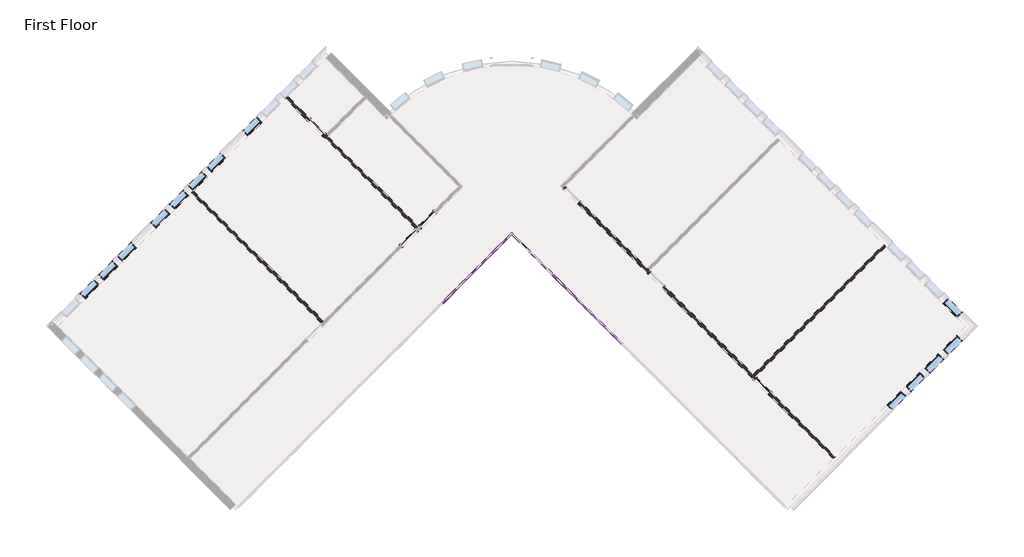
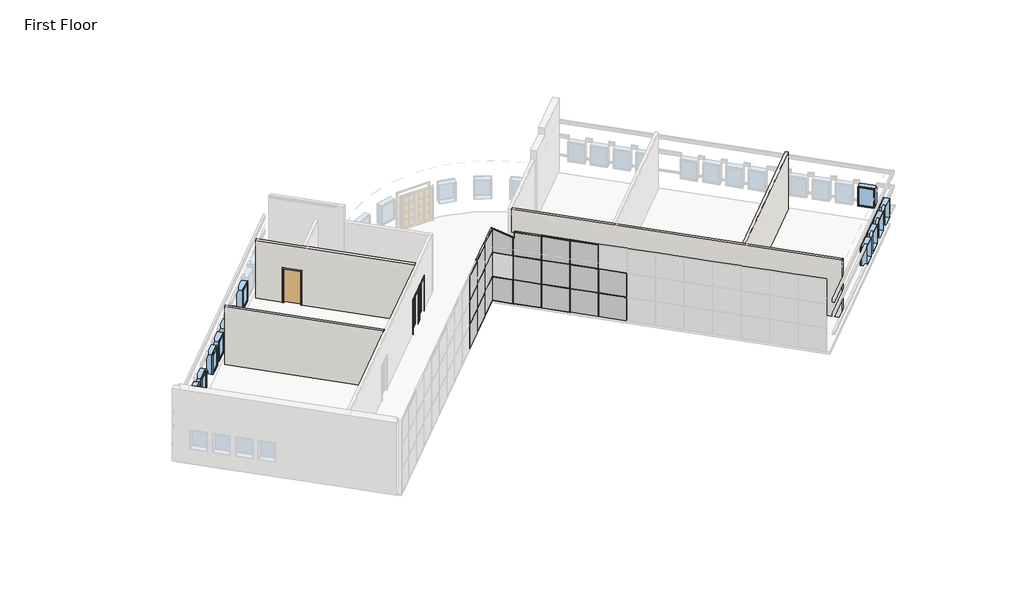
# One storey, part 3 of 5: 47 members, 22 plates, 13 windows, 4 doors, 4 walls.
"""IFC4 building model written with IfcOpenShell, lengths in millimetres."""

from ifc_helpers import new_model, si_unit, origin, origin_with_axes, place, context, project, spatial, polyline, outline, extrude, faceted_brep, transform, mapped, element, save
from components import door_f9494b7c, door_b81abb0e, door_5f5b55da, member_b8a5b5c0, member_155beb68, member_f5090587, member_42be4715, member_6121af53, member_bd80eb51, member_a3731390, member_b87a50da, member_beb33b19, member_b73a8a31, member_6675e4ca, member_76f0c52a, member_4ed907bf, system_panel_glazed_f8555db4, system_panel_glazed_da345f4e, system_panel_glazed_b4114ee2, system_panel_glazed_d4009c89, system_panel_glazed_f1e4c5b0, system_panel_solid_99f695d0, system_panel_solid_2f1037e2, system_panel_solid_f673cd79, system_panel_solid_3576f13f, window_15c49d37, window_0e2fc6ce

model = new_model("IFC4")

# Units and contexts
model_context = context("Model", 3, world=origin())
ifc_project = project(units=[si_unit("LENGTHUNIT", "METRE", prefix="MILLI")], contexts=[model_context])

# Site, building, storey
site = spatial("IfcSite", under=ifc_project)
building = spatial("IfcBuilding", under=site)
storey = spatial("IfcBuildingStorey", under=building, Name="First Floor", Elevation=0.0)

# Doors
placement = place(None, origin())
door_shape = door_f9494b7c(model_context)
element("IfcDoor", 1, ObjectType="Single-Flush : 36\" x 84\"", at=placement, inside=storey, context=model_context, shape_type="MappedRepresentation", body=[
    mapped(door_shape, transform((-11920.1265343, 7875.9588464, 0.0), x_axis=(0.7071067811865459, -0.7071067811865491, 0.0), y_axis=(0.7071067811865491, 0.7071067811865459, 0.0), z_axis=(0.0, 0.0, 1.0))),
])
door_2_shape = door_b81abb0e(model_context)
element("IfcDoor", 2, ObjectType="Single-Glass 1 : 36\" x 84\"", at=placement, inside=storey, context=model_context, shape_type="MappedRepresentation", body=[
    mapped(door_2_shape, transform((-7643.2795567, 2737.0072811, 0.0), x_axis=(0.7071067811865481, 0.7071067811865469, 0.0), y_axis=(-0.7071067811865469, 0.7071067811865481, 0.0), z_axis=(0.0, 0.0, 1.0))),
])
door_3_shape = door_5f5b55da(model_context)
element("IfcDoor", 3, ObjectType="Single-Glass 1 : 36\" x 84\"", at=placement, inside=storey, context=model_context, shape_type="MappedRepresentation", body=[
    mapped(door_3_shape, transform((-6781.1749691, 3599.1118687, 0.0), x_axis=(-0.7071067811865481, -0.7071067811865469, 0.0), y_axis=(0.7071067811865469, -0.7071067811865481, 0.0), z_axis=(0.0, 0.0, 1.0))),
])
element("IfcDoor", 4, ObjectType="Single-Glass 1 : 36\" x 84\"", at=placement, inside=storey, context=model_context, shape_type="MappedRepresentation", body=[
    mapped(door_3_shape, transform((8770.3835686, -4126.1534594, 0.0), x_axis=(-0.7071067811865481, 0.7071067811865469, 0.0), y_axis=(-0.7071067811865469, -0.7071067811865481, 0.0), z_axis=(0.0, 0.0, 1.0))),
])

# Members
member_shape = member_b8a5b5c0(model_context)
element("IfcMember", 5, ObjectType="Rectangular Mullion : 1.5\" x 2.5\" Rectangular", at=placement, inside=storey, context=model_context, shape_type="MappedRepresentation", body=[
    mapped(member_shape, transform((-2894.9691327, 2925.5926597, 0.0), x_axis=(0.0, 0.0, -1.0), y_axis=(-0.7071067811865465, 0.7071067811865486, 0.0), z_axis=(0.7071067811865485, 0.7071067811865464, 0.0))),
])
member_2_shape = member_155beb68(model_context)
element("IfcMember", 6, ObjectType="Rectangular Mullion : 1.5\" x 2.5\" Rectangular", at=placement, inside=storey, context=model_context, shape_type="MappedRepresentation", body=[
    mapped(member_2_shape, transform((-3945.6590988, 1874.9026935, 0.0), x_axis=(-0.7071067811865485, -0.7071067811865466, 0.0), y_axis=(-0.7071067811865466, 0.7071067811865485, 0.0), z_axis=(0.0, 0.0, -1.0))),
])
element("IfcMember", 7, ObjectType="Rectangular Mullion : 1.5\" x 2.5\" Rectangular", at=placement, inside=storey, context=model_context, shape_type="MappedRepresentation", body=[
    mapped(member_2_shape, transform((-5023.2898334, 797.271959, 0.0), x_axis=(-0.7071067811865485, -0.7071067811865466, 0.0), y_axis=(-0.7071067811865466, 0.7071067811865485, 0.0), z_axis=(0.0, 0.0, -1.0))),
])
element("IfcMember", 8, ObjectType="Rectangular Mullion : 1.5\" x 2.5\" Rectangular", at=placement, inside=storey, context=model_context, shape_type="MappedRepresentation", body=[
    mapped(member_2_shape, transform((115.6617319, -31.1566682, 0.0), x_axis=(-0.7071067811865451, 0.70710678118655, 0.0), y_axis=(0.70710678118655, 0.7071067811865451, 0.0), z_axis=(0.0, 0.0, -1.0))),
])
element("IfcMember", 9, ObjectType="Rectangular Mullion : 1.5\" x 2.5\" Rectangular", at=placement, inside=storey, context=model_context, shape_type="MappedRepresentation", body=[
    mapped(member_2_shape, transform((-961.9690026, 1046.4740663, 0.0), x_axis=(-0.7071067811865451, 0.70710678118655, 0.0), y_axis=(0.70710678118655, 0.7071067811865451, 0.0), z_axis=(0.0, 0.0, -1.0))),
])
element("IfcMember", 10, ObjectType="Rectangular Mullion : 1.5\" x 2.5\" Rectangular", at=placement, inside=storey, context=model_context, shape_type="MappedRepresentation", body=[
    mapped(member_2_shape, transform((-2039.5997371, 2124.1048009, 0.0), x_axis=(-0.7071067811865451, 0.70710678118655, 0.0), y_axis=(0.70710678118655, 0.7071067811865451, 0.0), z_axis=(0.0, 0.0, -1.0))),
])
element("IfcMember", 11, ObjectType="Rectangular Mullion : 1.5\" x 2.5\" Rectangular", at=placement, inside=storey, context=model_context, shape_type="MappedRepresentation", body=[
    mapped(member_2_shape, transform((-3945.6590988, 1874.9026935, 3048.0), x_axis=(-0.7071067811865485, -0.7071067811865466, 0.0), y_axis=(-0.7071067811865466, 0.7071067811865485, 0.0), z_axis=(0.0, 0.0, -1.0))),
])
element("IfcMember", 12, ObjectType="Rectangular Mullion : 1.5\" x 2.5\" Rectangular", at=placement, inside=storey, context=model_context, shape_type="MappedRepresentation", body=[
    mapped(member_2_shape, transform((-5023.2898334, 797.271959, 3048.0), x_axis=(-0.7071067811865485, -0.7071067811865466, 0.0), y_axis=(-0.7071067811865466, 0.7071067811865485, 0.0), z_axis=(0.0, 0.0, -1.0))),
])
element("IfcMember", 13, ObjectType="Rectangular Mullion : 1.5\" x 2.5\" Rectangular", at=placement, inside=storey, context=model_context, shape_type="MappedRepresentation", body=[
    mapped(member_2_shape, transform((115.6617319, -31.1566682, 3048.0), x_axis=(-0.7071067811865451, 0.70710678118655, 0.0), y_axis=(0.70710678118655, 0.7071067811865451, 0.0), z_axis=(0.0, 0.0, -1.0))),
])
element("IfcMember", 14, ObjectType="Rectangular Mullion : 1.5\" x 2.5\" Rectangular", at=placement, inside=storey, context=model_context, shape_type="MappedRepresentation", body=[
    mapped(member_2_shape, transform((-961.9690026, 1046.4740663, 3048.0), x_axis=(-0.7071067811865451, 0.70710678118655, 0.0), y_axis=(0.70710678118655, 0.7071067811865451, 0.0), z_axis=(0.0, 0.0, -1.0))),
])
element("IfcMember", 15, ObjectType="Rectangular Mullion : 1.5\" x 2.5\" Rectangular", at=placement, inside=storey, context=model_context, shape_type="MappedRepresentation", body=[
    mapped(member_2_shape, transform((-3945.6590988, 1874.9026935, 1524.0), x_axis=(-0.7071067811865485, -0.7071067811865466, 0.0), y_axis=(-0.7071067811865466, 0.7071067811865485, 0.0), z_axis=(0.0, 0.0, -1.0))),
])
element("IfcMember", 16, ObjectType="Rectangular Mullion : 1.5\" x 2.5\" Rectangular", at=placement, inside=storey, context=model_context, shape_type="MappedRepresentation", body=[
    mapped(member_2_shape, transform((-5023.2898334, 797.271959, 1524.0), x_axis=(-0.7071067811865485, -0.7071067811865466, 0.0), y_axis=(-0.7071067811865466, 0.7071067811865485, 0.0), z_axis=(0.0, 0.0, -1.0))),
])
element("IfcMember", 17, ObjectType="Rectangular Mullion : 1.5\" x 2.5\" Rectangular", at=placement, inside=storey, context=model_context, shape_type="MappedRepresentation", body=[
    mapped(member_2_shape, transform((115.6617319, -31.1566682, 1524.0), x_axis=(-0.7071067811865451, 0.70710678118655, 0.0), y_axis=(0.70710678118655, 0.7071067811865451, 0.0), z_axis=(0.0, 0.0, -1.0))),
])
element("IfcMember", 18, ObjectType="Rectangular Mullion : 1.5\" x 2.5\" Rectangular", at=placement, inside=storey, context=model_context, shape_type="MappedRepresentation", body=[
    mapped(member_2_shape, transform((-961.9690026, 1046.4740663, 1524.0), x_axis=(-0.7071067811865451, 0.70710678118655, 0.0), y_axis=(0.70710678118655, 0.7071067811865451, 0.0), z_axis=(0.0, 0.0, -1.0))),
])
element("IfcMember", 19, ObjectType="Rectangular Mullion : 1.5\" x 2.5\" Rectangular", at=placement, inside=storey, context=model_context, shape_type="MappedRepresentation", body=[
    mapped(member_2_shape, transform((-2039.5997371, 2124.1048009, 1524.0), x_axis=(-0.7071067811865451, 0.70710678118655, 0.0), y_axis=(0.70710678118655, 0.7071067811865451, 0.0), z_axis=(0.0, 0.0, -1.0))),
])
member_3_shape = member_f5090587(model_context)
element("IfcMember", 20, ObjectType="Rectangular Mullion : 1.5\" x 2.5\" Rectangular", at=placement, inside=storey, context=model_context, shape_type="MappedRepresentation", body=[
    mapped(member_3_shape, transform((-3932.1887147, 1888.3730777, 1524.0), x_axis=(0.0, 0.0, 1.0), y_axis=(-0.7071067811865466, 0.7071067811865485, 0.0), z_axis=(-0.7071067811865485, -0.7071067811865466, 0.0))),
])
element("IfcMember", 21, ObjectType="Rectangular Mullion : 1.5\" x 2.5\" Rectangular", at=placement, inside=storey, context=model_context, shape_type="MappedRepresentation", body=[
    mapped(member_3_shape, transform((-3932.1887147, 1888.3730777, 3048.0), x_axis=(0.0, 0.0, 1.0), y_axis=(-0.7071067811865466, 0.7071067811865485, 0.0), z_axis=(-0.7071067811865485, -0.7071067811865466, 0.0))),
])
member_4_shape = member_42be4715(model_context)
element("IfcMember", 22, ObjectType="Rectangular Mullion : 1.5\" x 2.5\" Rectangular", at=placement, inside=storey, context=model_context, shape_type="MappedRepresentation", body=[
    mapped(member_4_shape, transform((-5009.8194492, 810.7423431, 1524.0), x_axis=(0.0, 0.0, 1.0), y_axis=(-0.7071067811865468, 0.7071067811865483, 0.0), z_axis=(-0.7071067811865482, -0.7071067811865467, 0.0))),
])
element("IfcMember", 23, ObjectType="Rectangular Mullion : 1.5\" x 2.5\" Rectangular", at=placement, inside=storey, context=model_context, shape_type="MappedRepresentation", body=[
    mapped(member_4_shape, transform((-5009.8194492, 810.7423431, 3048.0), x_axis=(0.0, 0.0, 1.0), y_axis=(-0.7071067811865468, 0.7071067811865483, 0.0), z_axis=(-0.7071067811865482, -0.7071067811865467, 0.0))),
])
element("IfcMember", 24, ObjectType="Rectangular Mullion : 1.5\" x 2.5\" Rectangular", at=placement, inside=storey, context=model_context, shape_type="MappedRepresentation", body=[
    mapped(member_4_shape, transform((-2026.129353, 2110.6344167, 3048.0), x_axis=(0.0, 0.0, 1.0), y_axis=(0.7071067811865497, 0.7071067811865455, 0.0), z_axis=(-0.7071067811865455, 0.7071067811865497, 0.0))),
])
element("IfcMember", 25, ObjectType="Rectangular Mullion : 1.5\" x 2.5\" Rectangular", at=placement, inside=storey, context=model_context, shape_type="MappedRepresentation", body=[
    mapped(member_4_shape, transform((129.1321161, -44.6270524, 1524.0), x_axis=(0.0, 0.0, 1.0), y_axis=(0.70710678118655, 0.707106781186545, 0.0), z_axis=(-0.707106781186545, 0.70710678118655, 0.0))),
])
element("IfcMember", 26, ObjectType="Rectangular Mullion : 1.5\" x 2.5\" Rectangular", at=placement, inside=storey, context=model_context, shape_type="MappedRepresentation", body=[
    mapped(member_4_shape, transform((-948.4986184, 1033.0036821, 1524.0), x_axis=(0.0, 0.0, 1.0), y_axis=(0.7071067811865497, 0.7071067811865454, 0.0), z_axis=(-0.7071067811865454, 0.7071067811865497, 0.0))),
])
element("IfcMember", 27, ObjectType="Rectangular Mullion : 1.5\" x 2.5\" Rectangular", at=placement, inside=storey, context=model_context, shape_type="MappedRepresentation", body=[
    mapped(member_4_shape, transform((-2026.129353, 2110.6344167, 1524.0), x_axis=(0.0, 0.0, 1.0), y_axis=(0.7071067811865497, 0.7071067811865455, 0.0), z_axis=(-0.7071067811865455, 0.7071067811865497, 0.0))),
])
element("IfcMember", 28, ObjectType="Rectangular Mullion : 1.5\" x 2.5\" Rectangular", at=placement, inside=storey, context=model_context, shape_type="MappedRepresentation", body=[
    mapped(member_4_shape, transform((1206.7628506, -1122.2577869, 3048.0), x_axis=(0.0, 0.0, 1.0), y_axis=(0.70710678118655, 0.707106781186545, 0.0), z_axis=(-0.707106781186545, 0.70710678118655, 0.0))),
])
element("IfcMember", 29, ObjectType="Rectangular Mullion : 1.5\" x 2.5\" Rectangular", at=placement, inside=storey, context=model_context, shape_type="MappedRepresentation", body=[
    mapped(member_4_shape, transform((129.1321161, -44.6270524, 3048.0), x_axis=(0.0, 0.0, 1.0), y_axis=(0.70710678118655, 0.707106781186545, 0.0), z_axis=(-0.7071067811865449, 0.7071067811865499, 0.0))),
])
element("IfcMember", 30, ObjectType="Rectangular Mullion : 1.5\" x 2.5\" Rectangular", at=placement, inside=storey, context=model_context, shape_type="MappedRepresentation", body=[
    mapped(member_4_shape, transform((-948.4986184, 1033.0036821, 3048.0), x_axis=(0.0, 0.0, 1.0), y_axis=(0.7071067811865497, 0.7071067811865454, 0.0), z_axis=(-0.7071067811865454, 0.7071067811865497, 0.0))),
])
member_5_shape = member_6121af53(model_context)
element("IfcMember", 31, ObjectType="Rectangular Mullion : 1.5\" x 2.5\" Rectangular", at=placement, inside=storey, context=model_context, shape_type="MappedRepresentation", body=[
    mapped(member_5_shape, transform((-3959.129483, 1861.4323093, 0.0), x_axis=(0.0, 0.0, -1.0), y_axis=(-0.7071067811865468, 0.7071067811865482, 0.0), z_axis=(0.7071067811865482, 0.7071067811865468, 0.0))),
])
element("IfcMember", 32, ObjectType="Rectangular Mullion : 1.5\" x 2.5\" Rectangular", at=placement, inside=storey, context=model_context, shape_type="MappedRepresentation", body=[
    mapped(member_5_shape, transform((-5036.7602175, 783.8015748, 0.0), x_axis=(0.0, 0.0, -1.0), y_axis=(-0.7071067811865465, 0.7071067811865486, 0.0), z_axis=(0.7071067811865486, 0.7071067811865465, 0.0))),
])
element("IfcMember", 33, ObjectType="Rectangular Mullion : 1.5\" x 2.5\" Rectangular", at=placement, inside=storey, context=model_context, shape_type="MappedRepresentation", body=[
    mapped(member_5_shape, transform((102.1913477, -17.686284, 0.0), x_axis=(0.0, 0.0, -1.0), y_axis=(0.7071067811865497, 0.7071067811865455, 0.0), z_axis=(0.7071067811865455, -0.7071067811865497, 0.0))),
])
element("IfcMember", 34, ObjectType="Rectangular Mullion : 1.5\" x 2.5\" Rectangular", at=placement, inside=storey, context=model_context, shape_type="MappedRepresentation", body=[
    mapped(member_5_shape, transform((-975.4393868, 1059.9444505, 0.0), x_axis=(0.0, 0.0, -1.0), y_axis=(0.7071067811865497, 0.7071067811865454, 0.0), z_axis=(0.7071067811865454, -0.7071067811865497, 0.0))),
])
member_6_shape = member_bd80eb51(model_context)
element("IfcMember", 35, ObjectType="Rectangular Mullion : 1.5\" x 2.5\" Rectangular", at=placement, inside=storey, context=model_context, shape_type="MappedRepresentation", body=[
    mapped(member_6_shape, transform((-2053.0701213, 2137.575185, 0.0), x_axis=(0.0, 0.0, -1.0), y_axis=(0.7071067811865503, 0.7071067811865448, 0.0), z_axis=(0.7071067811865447, -0.7071067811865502, 0.0))),
])
element("IfcMember", 36, ObjectType="Rectangular Mullion : 1.5\" x 2.5\" Rectangular", at=placement, inside=storey, context=model_context, shape_type="MappedRepresentation", body=[
    mapped(member_shape, transform((-3932.1887147, 1888.3730777, 4572.0), x_axis=(0.0, 0.0, 1.0), y_axis=(-0.7071067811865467, 0.7071067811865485, 0.0), z_axis=(-0.7071067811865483, -0.7071067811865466, 0.0))),
])
element("IfcMember", 37, ObjectType="Rectangular Mullion : 1.5\" x 2.5\" Rectangular", at=placement, inside=storey, context=model_context, shape_type="MappedRepresentation", body=[
    mapped(member_5_shape, transform((-5009.8194492, 810.7423431, 4572.0), x_axis=(0.0, 0.0, 1.0), y_axis=(-0.7071067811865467, 0.7071067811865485, 0.0), z_axis=(-0.7071067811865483, -0.7071067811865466, 0.0))),
])
element("IfcMember", 38, ObjectType="Rectangular Mullion : 1.5\" x 2.5\" Rectangular", at=placement, inside=storey, context=model_context, shape_type="MappedRepresentation", body=[
    mapped(member_5_shape, transform((129.1321161, -44.6270524, 4572.0), x_axis=(0.0, 0.0, 1.0), y_axis=(0.70710678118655, 0.707106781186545, 0.0), z_axis=(-0.7071067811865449, 0.7071067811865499, 0.0))),
])
element("IfcMember", 39, ObjectType="Rectangular Mullion : 1.5\" x 2.5\" Rectangular", at=placement, inside=storey, context=model_context, shape_type="MappedRepresentation", body=[
    mapped(member_5_shape, transform((-948.4986184, 1033.0036821, 4572.0), x_axis=(0.0, 0.0, 1.0), y_axis=(0.7071067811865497, 0.7071067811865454, 0.0), z_axis=(-0.7071067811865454, 0.7071067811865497, 0.0))),
])
member_7_shape = member_a3731390(model_context)
element("IfcMember", 40, ObjectType="Rectangular Mullion : 1.5\" x 2.5\" Rectangular", at=placement, inside=storey, context=model_context, shape_type="MappedRepresentation", body=[
    mapped(member_7_shape, transform((-2841.0875959, 2925.5926597, 3048.0), x_axis=(0.0, 0.0, 1.0), y_axis=(0.7071067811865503, 0.7071067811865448, 0.0), z_axis=(-0.7071067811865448, 0.7071067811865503, 0.0))),
])
element("IfcMember", 41, ObjectType="Rectangular Mullion : 1.5\" x 2.5\" Rectangular", at=placement, inside=storey, context=model_context, shape_type="MappedRepresentation", body=[
    mapped(member_7_shape, transform((-2841.0875959, 2925.5926597, 1524.0), x_axis=(0.0, 0.0, 1.0), y_axis=(0.7071067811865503, 0.7071067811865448, 0.0), z_axis=(-0.7071067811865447, 0.7071067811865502, 0.0))),
])
member_8_shape = member_b87a50da(model_context)
element("IfcMember", 42, ObjectType="Rectangular Mullion : 1.5\" x 2.5\" Rectangular", at=placement, inside=storey, context=model_context, shape_type="MappedRepresentation", body=[
    mapped(member_8_shape, transform((-2868.0283643, 2952.533428, 4572.0), x_axis=(0.7071067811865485, 0.7071067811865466, 0.0), y_axis=(-0.7071067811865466, 0.7071067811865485, 0.0), z_axis=(0.0, 0.0, 1.0))),
])
element("IfcMember", 43, ObjectType="Rectangular Mullion : 1.5\" x 2.5\" Rectangular", at=placement, inside=storey, context=model_context, shape_type="MappedRepresentation", body=[
    mapped(member_8_shape, transform((-2868.0283643, 2952.533428, 0.0), x_axis=(-0.7071067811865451, 0.70710678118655, 0.0), y_axis=(0.70710678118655, 0.7071067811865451, 0.0), z_axis=(0.0, 0.0, -1.0))),
])
element("IfcMember", 44, ObjectType="Rectangular Mullion : 1.5\" x 2.5\" Rectangular", at=placement, inside=storey, context=model_context, shape_type="MappedRepresentation", body=[
    mapped(member_8_shape, transform((-2868.0283643, 2952.533428, 1524.0), x_axis=(-0.7071067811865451, 0.70710678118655, 0.0), y_axis=(0.70710678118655, 0.7071067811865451, 0.0), z_axis=(0.0, 0.0, -1.0))),
])
element("IfcMember", 45, ObjectType="Rectangular Mullion : 1.5\" x 2.5\" Rectangular", at=placement, inside=storey, context=model_context, shape_type="MappedRepresentation", body=[
    mapped(member_8_shape, transform((-2868.0283643, 2952.533428, 1524.0), x_axis=(0.7071067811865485, 0.7071067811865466, 0.0), y_axis=(-0.7071067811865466, 0.7071067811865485, 0.0), z_axis=(0.0, 0.0, 1.0))),
])
element("IfcMember", 46, ObjectType="Rectangular Mullion : 1.5\" x 2.5\" Rectangular", at=placement, inside=storey, context=model_context, shape_type="MappedRepresentation", body=[
    mapped(member_8_shape, transform((-2868.0283643, 2952.533428, 3048.0), x_axis=(0.7071067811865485, 0.7071067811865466, 0.0), y_axis=(-0.7071067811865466, 0.7071067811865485, 0.0), z_axis=(0.0, 0.0, 1.0))),
])
member_9_shape = member_beb33b19(model_context)
element("IfcMember", 47, ObjectType="Rectangular Mullion : 1.5\" x 2.5\" Rectangular", at=placement, inside=storey, context=model_context, shape_type="MappedRepresentation", body=[
    mapped(member_9_shape, transform((-2039.5997371, 2124.1048009, 4181.475), x_axis=(0.2236067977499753, -0.22360679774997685, 0.9486832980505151), y_axis=(0.7071067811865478, 0.7071067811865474, 0.0), z_axis=(-0.6708203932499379, 0.6708203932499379, 0.3162277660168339))),
])
member_10_shape = member_b73a8a31(model_context)
element("IfcMember", 48, ObjectType="Rectangular Mullion : 1.5\" x 2.5\" Rectangular", at=placement, inside=storey, context=model_context, shape_type="MappedRepresentation", body=[
    mapped(member_10_shape, transform((-2039.5997371, 2124.1048009, 3048.0), x_axis=(-0.7071067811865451, 0.70710678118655, 0.0), y_axis=(0.70710678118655, 0.7071067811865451, 0.0), z_axis=(0.0, 0.0, -1.0))),
])
member_11_shape = member_6675e4ca(model_context)
element("IfcMember", 49, ObjectType="Rectangular Mullion : 1.5\" x 2.5\" Rectangular", at=placement, inside=storey, context=model_context, shape_type="MappedRepresentation", body=[
    mapped(member_11_shape, transform((-2005.9237767, 2090.4288404, 4165.6), x_axis=(-0.7071067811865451, 0.70710678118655, 0.0), y_axis=(0.70710678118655, 0.7071067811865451, 0.0), z_axis=(0.0, 0.0, -1.0))),
])
member_12_shape = member_76f0c52a(model_context)
element("IfcMember", 50, ObjectType="Rectangular Mullion : 1.5\" x 2.5\" Rectangular", at=placement, inside=storey, context=model_context, shape_type="MappedRepresentation", body=[
    mapped(member_12_shape, transform((-2868.0283643, 2952.533428, 4572.0), x_axis=(0.2236067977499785, -0.22360679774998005, 0.9486832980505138), y_axis=(0.7071067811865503, 0.7071067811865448, 0.0), z_axis=(-0.6708203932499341, 0.6708203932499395, 0.31622776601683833))),
])
member_13_shape = member_4ed907bf(model_context)
element("IfcMember", 51, ObjectType="Rectangular Mullion : 1.5\" x 2.5\" Rectangular", at=placement, inside=storey, context=model_context, shape_type="MappedRepresentation", body=[
    mapped(member_13_shape, transform((-2868.0283643, 2952.533428, 3048.0), x_axis=(-0.7071067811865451, 0.70710678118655, 0.0), y_axis=(0.70710678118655, 0.7071067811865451, 0.0), z_axis=(0.0, 0.0, -1.0))),
])

# Plates
system_panel_glazed_shape = system_panel_glazed_f8555db4(model_context)
element("IfcPlate", 52, ObjectType="System Panel : Glazed", at=placement, inside=storey, context=model_context, shape_type="MappedRepresentation", body=[
    mapped(system_panel_glazed_shape, transform((-3413.5789237, 2406.9828687, 38.1), x_axis=(-0.7071067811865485, -0.7071067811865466, 0.0), y_axis=(0.7071067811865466, -0.7071067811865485, 0.0), z_axis=(0.0, 0.0, 1.0))),
])
system_panel_glazed_2_shape = system_panel_glazed_da345f4e(model_context)
element("IfcPlate", 53, ObjectType="System Panel : Glazed", at=placement, inside=storey, context=model_context, shape_type="MappedRepresentation", body=[
    mapped(system_panel_glazed_2_shape, transform((1732.1078337, -1647.60277, 38.1), x_axis=(-0.7071067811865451, 0.70710678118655, 0.0), y_axis=(-0.70710678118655, -0.7071067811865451, 0.0), z_axis=(0.0, 0.0, 1.0))),
])
element("IfcPlate", 54, ObjectType="System Panel : Glazed", at=placement, inside=storey, context=model_context, shape_type="MappedRepresentation", body=[
    mapped(system_panel_glazed_2_shape, transform((654.4770992, -569.9720355, 38.1), x_axis=(-0.7071067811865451, 0.70710678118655, 0.0), y_axis=(-0.70710678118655, -0.7071067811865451, 0.0), z_axis=(0.0, 0.0, 1.0))),
])
element("IfcPlate", 55, ObjectType="System Panel : Glazed", at=placement, inside=storey, context=model_context, shape_type="MappedRepresentation", body=[
    mapped(system_panel_glazed_2_shape, transform((-423.1536353, 507.6586991, 38.1), x_axis=(-0.7071067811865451, 0.70710678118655, 0.0), y_axis=(-0.70710678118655, -0.7071067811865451, 0.0), z_axis=(0.0, 0.0, 1.0))),
])
element("IfcPlate", 56, ObjectType="System Panel : Glazed", at=placement, inside=storey, context=model_context, shape_type="MappedRepresentation", body=[
    mapped(system_panel_glazed_2_shape, transform((-4484.4744661, 1336.0873262, 38.1), x_axis=(-0.7071067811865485, -0.7071067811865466, 0.0), y_axis=(0.7071067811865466, -0.7071067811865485, 0.0), z_axis=(0.0, 0.0, 1.0))),
])
element("IfcPlate", 57, ObjectType="System Panel : Glazed", at=placement, inside=storey, context=model_context, shape_type="MappedRepresentation", body=[
    mapped(system_panel_glazed_2_shape, transform((-5562.1052006, 258.4565917, 38.1), x_axis=(-0.7071067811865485, -0.7071067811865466, 0.0), y_axis=(0.7071067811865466, -0.7071067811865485, 0.0), z_axis=(0.0, 0.0, 1.0))),
])
element("IfcPlate", 58, ObjectType="System Panel : Glazed", at=placement, inside=storey, context=model_context, shape_type="MappedRepresentation", body=[
    mapped(system_panel_glazed_2_shape, transform((-1500.7843699, 1585.2894336, 38.1), x_axis=(-0.7071067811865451, 0.70710678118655, 0.0), y_axis=(-0.70710678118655, -0.7071067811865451, 0.0), z_axis=(0.0, 0.0, 1.0))),
])
system_panel_glazed_3_shape = system_panel_glazed_b4114ee2(model_context)
element("IfcPlate", 59, ObjectType="System Panel : Glazed", at=placement, inside=storey, context=model_context, shape_type="MappedRepresentation", body=[
    mapped(system_panel_glazed_3_shape, transform((-2447.0788586, 2531.5839223, 38.1), x_axis=(-0.7071067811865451, 0.70710678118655, 0.0), y_axis=(-0.70710678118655, -0.7071067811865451, 0.0), z_axis=(0.0, 0.0, 1.0))),
])
system_panel_glazed_4_shape = system_panel_glazed_d4009c89(model_context)
element("IfcPlate", 60, ObjectType="System Panel : Glazed", at=placement, inside=storey, context=model_context, shape_type="MappedRepresentation", body=[
    mapped(system_panel_glazed_4_shape, transform((-3413.5789237, 2406.9828687, 1543.05), x_axis=(-0.7071067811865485, -0.7071067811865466, 0.0), y_axis=(0.7071067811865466, -0.7071067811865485, 0.0), z_axis=(0.0, 0.0, 1.0))),
])
system_panel_glazed_5_shape = system_panel_glazed_f1e4c5b0(model_context)
element("IfcPlate", 61, ObjectType="System Panel : Glazed", at=placement, inside=storey, context=model_context, shape_type="MappedRepresentation", body=[
    mapped(system_panel_glazed_5_shape, transform((1732.1078337, -1647.60277, 1543.05), x_axis=(-0.7071067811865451, 0.70710678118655, 0.0), y_axis=(-0.70710678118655, -0.7071067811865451, 0.0), z_axis=(0.0, 0.0, 1.0))),
])
element("IfcPlate", 62, ObjectType="System Panel : Glazed", at=placement, inside=storey, context=model_context, shape_type="MappedRepresentation", body=[
    mapped(system_panel_glazed_5_shape, transform((654.4770992, -569.9720355, 1543.05), x_axis=(-0.7071067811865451, 0.70710678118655, 0.0), y_axis=(-0.70710678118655, -0.7071067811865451, 0.0), z_axis=(0.0, 0.0, 1.0))),
])
element("IfcPlate", 63, ObjectType="System Panel : Glazed", at=placement, inside=storey, context=model_context, shape_type="MappedRepresentation", body=[
    mapped(system_panel_glazed_5_shape, transform((-423.1536353, 507.6586991, 1543.05), x_axis=(-0.7071067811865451, 0.70710678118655, 0.0), y_axis=(-0.70710678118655, -0.7071067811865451, 0.0), z_axis=(0.0, 0.0, 1.0))),
])
element("IfcPlate", 64, ObjectType="System Panel : Glazed", at=placement, inside=storey, context=model_context, shape_type="MappedRepresentation", body=[
    mapped(system_panel_glazed_5_shape, transform((-4484.4744661, 1336.0873262, 1543.05), x_axis=(-0.7071067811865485, -0.7071067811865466, 0.0), y_axis=(0.7071067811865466, -0.7071067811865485, 0.0), z_axis=(0.0, 0.0, 1.0))),
])
element("IfcPlate", 65, ObjectType="System Panel : Glazed", at=placement, inside=storey, context=model_context, shape_type="MappedRepresentation", body=[
    mapped(system_panel_glazed_5_shape, transform((-5562.1052006, 258.4565917, 1543.05), x_axis=(-0.7071067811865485, -0.7071067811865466, 0.0), y_axis=(0.7071067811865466, -0.7071067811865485, 0.0), z_axis=(0.0, 0.0, 1.0))),
])
element("IfcPlate", 66, ObjectType="System Panel : Glazed", at=placement, inside=storey, context=model_context, shape_type="MappedRepresentation", body=[
    mapped(system_panel_glazed_5_shape, transform((-1500.7843699, 1585.2894336, 1543.05), x_axis=(-0.7071067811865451, 0.70710678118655, 0.0), y_axis=(-0.70710678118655, -0.7071067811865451, 0.0), z_axis=(0.0, 0.0, 1.0))),
])
system_panel_solid_shape = system_panel_solid_99f695d0(model_context)
element("IfcPlate", 67, ObjectType="System Panel : Solid", at=placement, inside=storey, context=model_context, shape_type="MappedRepresentation", body=[
    mapped(system_panel_solid_shape, transform((-3413.5789237, 2406.9828687, 3067.05), x_axis=(-0.7071067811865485, -0.7071067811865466, 0.0), y_axis=(0.7071067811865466, -0.7071067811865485, 0.0), z_axis=(0.0, 0.0, 1.0))),
])
system_panel_solid_2_shape = system_panel_solid_2f1037e2(model_context)
element("IfcPlate", 68, ObjectType="System Panel : Solid", at=placement, inside=storey, context=model_context, shape_type="MappedRepresentation", body=[
    mapped(system_panel_solid_2_shape, transform((654.4770992, -569.9720355, 3067.05), x_axis=(-0.7071067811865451, 0.70710678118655, 0.0), y_axis=(-0.70710678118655, -0.7071067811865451, 0.0), z_axis=(0.0, 0.0, 1.0))),
])
element("IfcPlate", 69, ObjectType="System Panel : Solid", at=placement, inside=storey, context=model_context, shape_type="MappedRepresentation", body=[
    mapped(system_panel_solid_2_shape, transform((-423.1536353, 507.6586991, 3067.05), x_axis=(-0.7071067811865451, 0.70710678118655, 0.0), y_axis=(-0.70710678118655, -0.7071067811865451, 0.0), z_axis=(0.0, 0.0, 1.0))),
])
element("IfcPlate", 70, ObjectType="System Panel : Solid", at=placement, inside=storey, context=model_context, shape_type="MappedRepresentation", body=[
    mapped(system_panel_solid_2_shape, transform((-4484.4744661, 1336.0873262, 3067.05), x_axis=(-0.7071067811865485, -0.7071067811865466, 0.0), y_axis=(0.7071067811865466, -0.7071067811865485, 0.0), z_axis=(0.0, 0.0, 1.0))),
])
element("IfcPlate", 71, ObjectType="System Panel : Solid", at=placement, inside=storey, context=model_context, shape_type="MappedRepresentation", body=[
    mapped(system_panel_solid_2_shape, transform((-5562.1052006, 258.4565917, 3067.05), x_axis=(-0.7071067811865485, -0.7071067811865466, 0.0), y_axis=(0.7071067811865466, -0.7071067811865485, 0.0), z_axis=(0.0, 0.0, 1.0))),
])
system_panel_solid_3_shape = system_panel_solid_f673cd79(model_context)
element("IfcPlate", 72, ObjectType="System Panel : Solid", at=placement, inside=storey, context=model_context, shape_type="MappedRepresentation", body=[
    mapped(system_panel_solid_3_shape, transform((-1500.7843699, 1585.2894336, 3067.05), x_axis=(-0.7071067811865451, 0.70710678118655, 0.0), y_axis=(-0.70710678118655, -0.7071067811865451, 0.0), z_axis=(0.0, 0.0, 1.0))),
])
system_panel_solid_4_shape = system_panel_solid_3576f13f(model_context)
element("IfcPlate", 73, ObjectType="System Panel : Solid", at=placement, inside=storey, context=model_context, shape_type="MappedRepresentation", body=[
    mapped(system_panel_solid_4_shape, transform((-2447.0788586, 2531.5839223, 3067.05), x_axis=(-0.7071067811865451, 0.70710678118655, 0.0), y_axis=(-0.70710678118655, -0.7071067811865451, 0.0), z_axis=(0.0, 0.0, 1.0))),
])

# Walls
element("IfcWall", 74, ObjectType="Interior - 6 1/8\" Partition (2-hr)", at=placement, inside=storey, context=model_context, shape_type="Brep", body=[
    faceted_brep([(-7212.2272629, 3278.0677124, 0.0), (-11379.066103, 7444.9065526, 0.0), (-11489.0742405, 7554.9146901, 0.0), (-11541.8332452, 7607.6736948, 0.0), (-11541.8332452, 7607.6736948, 2133.6), (-12188.411686, 8254.2521355, 2133.6), (-12188.411686, 8254.2521355, 0.0), (-13249.2044403, 9315.0448898, 0.0), (-13249.2044403, 9315.0448898, 3657.6), (-11489.0742405, 7554.9146901, 3657.6), (-11379.066103, 7444.9065526, 3657.6), (-7212.2272629, 3278.0677124, 3657.6), (-11651.8413827, 7497.6655573, 2133.6), (-11651.8413827, 7497.6655573, 0.0), (-7322.2354004, 3168.0595749, 0.0), (-7322.2354004, 3168.0595749, 3657.6), (-13359.2125777, 9205.0367523, 3657.6), (-13359.2125777, 9205.0367523, 0.0), (-12298.4198234, 8144.243998, 0.0), (-12298.4198234, 8144.243998, 2133.6)], [[[0, 1, 2, 3, 4, 5, 6, 7, 8, 9, 10, 11]], [[12, 13, 14, 15, 16, 17, 18, 19]], [[14, 13, 3, 2, 1, 0]], [[18, 17, 7, 6]], [[11, 10, 9, 8, 16, 15]], [[8, 7, 17, 16]], [[0, 11, 15, 14]], [[4, 3, 13, 12]], [[5, 4, 12, 19]], [[6, 5, 19, 18]]]),
])
element("IfcWall", 75, ObjectType="Interior - 6 1/8\" Partition (2-hr)", at=placement, inside=storey, context=model_context, shape_type="SweptSolid", body=[
    extrude(outline(polyline([(-17633.6967091, 4930.552621), (-11596.7195317, -1106.4245564), (-11706.7276692, -1216.4326939), (-17743.7048466, 4820.5444835), (-17633.6967091, 4930.552621)])), origin_with_axes(), (0.0, 0.0, 1.0), 3657.6),
])
element("IfcWall", 76, ObjectType="Interior - 6 1/8\" Partition (2-hr)", at=placement, inside=storey, context=model_context, shape_type="Brep", body=[
    faceted_brep([(8502.098417, -3747.8601703, 2133.6), (8502.098417, -3747.8601703, 0.0), (8449.3394123, -3695.1011656, 0.0), (8339.3312748, -3585.0930281, 0.0), (4225.2514393, 528.9868073, 0.0), (4225.2514393, 528.9868073, 2133.6), (3578.6729986, 1175.5652481, 2133.6), (3578.6729986, 1175.5652481, 0.0), (3525.9139939, 1228.3242528, 0.0), (3415.9058564, 1338.3323903, 0.0), (311.86927, 4442.3689766, 0.0), (311.86927, 4442.3689766, 2133.6), (-334.7091707, 5088.9474174, 2133.6), (-334.7091707, 5088.9474174, 0.0), (-387.4681754, 5141.7064221, 0.0), (-387.4681754, 5141.7064221, 3657.6), (3415.9058564, 1338.3323903, 3657.6), (3525.9139939, 1228.3242528, 3657.6), (8339.3312748, -3585.0930281, 3657.6), (8449.3394123, -3695.1011656, 3657.6), (12149.2049342, -7394.9666875, 3657.6), (12149.2049342, -7394.9666875, 0.0), (9148.6768577, -4394.438611, 0.0), (9148.6768577, -4394.438611, 2133.6), (4115.2433018, 418.9786699, 0.0), (8392.0902795, -3857.8683078, 0.0), (8392.0902795, -3857.8683078, 2133.6), (9038.6687202, -4504.4467485, 2133.6), (9038.6687202, -4504.4467485, 0.0), (12039.1967967, -7504.974825, 0.0), (12039.1967967, -7504.974825, 3657.6), (-497.4763129, 5031.6982846, 3657.6), (-497.4763129, 5031.6982846, 0.0), (-444.7173082, 4978.9392799, 0.0), (-444.7173082, 4978.9392799, 2133.6), (201.8611325, 4332.3608392, 2133.6), (201.8611325, 4332.3608392, 0.0), (3468.6648611, 1065.5571106, 0.0), (3468.6648611, 1065.5571106, 2133.6), (4115.2433018, 418.9786699, 2133.6)], [[[0, 1, 2, 3, 4, 5, 6, 7, 8, 9, 10, 11, 12, 13, 14, 15, 16, 17, 18, 19, 20, 21, 22, 23]], [[24, 25, 26, 27, 28, 29, 30, 31, 32, 33, 34, 35, 36, 37, 38, 39]], [[14, 13, 33, 32]], [[10, 9, 8, 7, 37, 36]], [[4, 3, 2, 1, 25, 24]], [[22, 21, 29, 28]], [[20, 19, 18, 17, 16, 15, 31, 30]], [[15, 14, 32, 31]], [[21, 20, 30, 29]], [[34, 33, 13, 12]], [[35, 34, 12, 11]], [[36, 35, 11, 10]], [[38, 37, 7, 6]], [[39, 38, 6, 5]], [[24, 39, 5, 4]], [[26, 25, 1, 0]], [[27, 26, 0, 23]], [[28, 27, 23, 22]]]),
])
element("IfcWall", 77, ObjectType="Interior - 6 1/8\" Partition (2-hr)", at=placement, inside=storey, context=model_context, shape_type="SweptSolid", body=[
    extrude(outline(polyline([(8339.3312748, -3585.0930281), (14376.3084522, 2451.8841493), (14486.3165897, 2341.8760118), (8449.3394123, -3695.1011656), (8339.3312748, -3585.0930281)])), origin_with_axes(), (0.0, 0.0, 1.0), 3657.6),
])

# Windows
window_shape = window_15c49d37(model_context)
element("IfcWindow", 78, ObjectType="Fixed : 36\" x 48\"", at=placement, inside=storey, context=model_context, shape_type="MappedRepresentation", body=[
    mapped(window_shape, transform((-22474.1725406, 339.2788968, 0.0), x_axis=(-0.7071067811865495, -0.7071067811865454, 0.0), y_axis=(0.7071067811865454, -0.7071067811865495, 0.0), z_axis=(0.0, 0.0, 1.0))),
])
element("IfcWindow", 79, ObjectType="Fixed : 36\" x 48\"", at=placement, inside=storey, context=model_context, shape_type="MappedRepresentation", body=[
    mapped(window_shape, transform((-21612.067953, 1201.3834844, 0.0), x_axis=(-0.7071067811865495, -0.7071067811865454, 0.0), y_axis=(0.7071067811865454, -0.7071067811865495, 0.0), z_axis=(0.0, 0.0, 1.0))),
])
element("IfcWindow", 80, ObjectType="Fixed : 36\" x 48\"", at=placement, inside=storey, context=model_context, shape_type="MappedRepresentation", body=[
    mapped(window_shape, transform((-20749.9633654, 2063.488072, 0.0), x_axis=(-0.7071067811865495, -0.7071067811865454, 0.0), y_axis=(0.7071067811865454, -0.7071067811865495, 0.0), z_axis=(0.0, 0.0, 1.0))),
])
element("IfcWindow", 81, ObjectType="Fixed : 36\" x 48\"", at=placement, inside=storey, context=model_context, shape_type="MappedRepresentation", body=[
    mapped(window_shape, transform((-19187.8702245, 3625.5812129, 0.0), x_axis=(-0.7071067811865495, -0.7071067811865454, 0.0), y_axis=(0.7071067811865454, -0.7071067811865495, 0.0), z_axis=(0.0, 0.0, 1.0))),
])
element("IfcWindow", 82, ObjectType="Fixed : 36\" x 48\"", at=placement, inside=storey, context=model_context, shape_type="MappedRepresentation", body=[
    mapped(window_shape, transform((-18325.7656368, 4487.6858006, 0.0), x_axis=(-0.7071067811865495, -0.7071067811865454, 0.0), y_axis=(0.7071067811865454, -0.7071067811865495, 0.0), z_axis=(0.0, 0.0, 1.0))),
])
element("IfcWindow", 83, ObjectType="Fixed : 36\" x 48\"", at=placement, inside=storey, context=model_context, shape_type="MappedRepresentation", body=[
    mapped(window_shape, transform((-17463.6610492, 5349.7903882, 0.0), x_axis=(-0.7071067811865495, -0.7071067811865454, 0.0), y_axis=(0.7071067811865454, -0.7071067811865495, 0.0), z_axis=(0.0, 0.0, 1.0))),
])
element("IfcWindow", 84, ObjectType="Fixed : 36\" x 48\"", at=placement, inside=storey, context=model_context, shape_type="MappedRepresentation", body=[
    mapped(window_shape, transform((-16601.5564616, 6211.8949758, 0.0), x_axis=(-0.7071067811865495, -0.7071067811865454, 0.0), y_axis=(0.7071067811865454, -0.7071067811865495, 0.0), z_axis=(0.0, 0.0, 1.0))),
])
element("IfcWindow", 85, ObjectType="Fixed : 36\" x 48\"", at=placement, inside=storey, context=model_context, shape_type="MappedRepresentation", body=[
    mapped(window_shape, transform((17600.2203996, -2193.1533294, 0.0), x_axis=(0.7071067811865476, 0.7071067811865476, 0.0), y_axis=(-0.7071067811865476, 0.7071067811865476, 0.0), z_axis=(0.0, 0.0, 1.0))),
])
element("IfcWindow", 86, ObjectType="Fixed : 36\" x 48\"", at=placement, inside=storey, context=model_context, shape_type="MappedRepresentation", body=[
    mapped(window_shape, transform((16738.115812, -3055.257917, 0.0), x_axis=(0.7071067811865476, 0.7071067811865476, 0.0), y_axis=(-0.7071067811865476, 0.7071067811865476, 0.0), z_axis=(0.0, 0.0, 1.0))),
])
element("IfcWindow", 87, ObjectType="Fixed : 36\" x 48\"", at=placement, inside=storey, context=model_context, shape_type="MappedRepresentation", body=[
    mapped(window_shape, transform((15876.0112244, -3917.3625046, 0.0), x_axis=(0.7071067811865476, 0.7071067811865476, 0.0), y_axis=(-0.7071067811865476, 0.7071067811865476, 0.0), z_axis=(0.0, 0.0, 1.0))),
])
element("IfcWindow", 88, ObjectType="Fixed : 36\" x 48\"", at=placement, inside=storey, context=model_context, shape_type="MappedRepresentation", body=[
    mapped(window_shape, transform((15013.9066368, -4779.4670922, 0.0), x_axis=(0.7071067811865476, 0.7071067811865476, 0.0), y_axis=(-0.7071067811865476, 0.7071067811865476, 0.0), z_axis=(0.0, 0.0, 1.0))),
])
window_2_shape = window_0e2fc6ce(model_context)
element("IfcWindow", 89, ObjectType="Fixed : 36\" x 48\"", at=placement, inside=storey, context=model_context, shape_type="MappedRepresentation", body=[
    mapped(window_2_shape, transform((-14876.6402977, 7936.8111398, 0.0), x_axis=(0.7071067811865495, 0.7071067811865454, 0.0), y_axis=(-0.7071067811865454, 0.7071067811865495, 0.0), z_axis=(0.0, 0.0, 1.0))),
])
element("IfcWindow", 90, ObjectType="Fixed : 36\" x 48\"", at=placement, inside=storey, context=model_context, shape_type="MappedRepresentation", body=[
    mapped(window_2_shape, transform((17600.2203996, -522.8256908, 0.0), x_axis=(0.7071067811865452, -0.7071067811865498, 0.0), y_axis=(0.7071067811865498, 0.7071067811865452, 0.0), z_axis=(0.0, 0.0, 1.0))),
])

save(model, "model.ifc")
